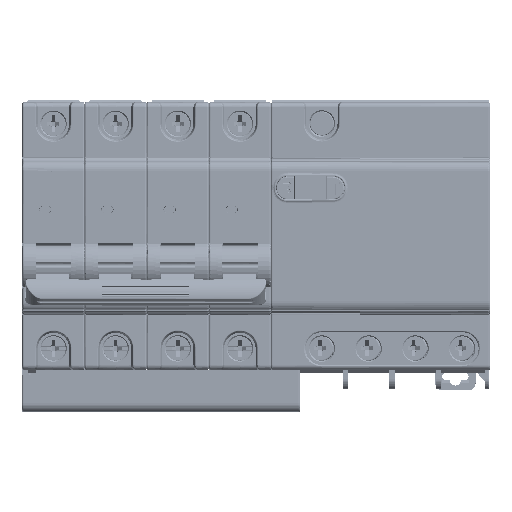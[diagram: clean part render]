
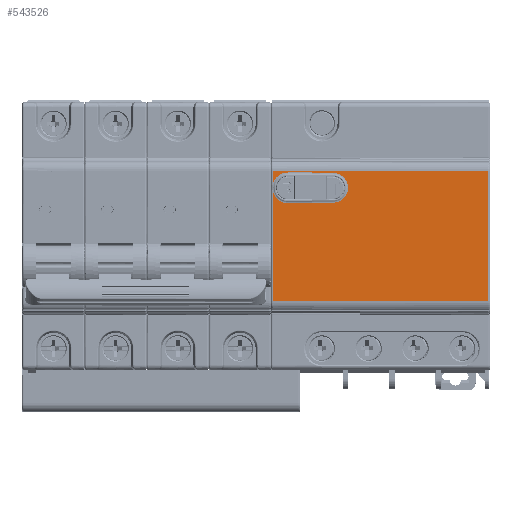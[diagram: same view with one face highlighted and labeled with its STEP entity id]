
A CAD part, top view. The second image highlights one B-rep face of the part: STEP entity #543526.
In plain terms, the highlighted planar face has unit normal (0, 0, 1) as drawn and (0, 1, 0) by its records, which use the part's own axes.
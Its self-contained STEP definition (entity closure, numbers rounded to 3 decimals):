
#564 = DIRECTION ( 'NONE',  ( 0., 0., -1. ) ) ;
#738 = EDGE_CURVE ( 'NONE', #85063, #279052, #480766, .T. ) ;
#1050 = ORIENTED_EDGE ( 'NONE', *, *, #472550, .T. ) ;
#1503 = B_SPLINE_CURVE_WITH_KNOTS ( 'NONE', 3,
 ( #385696, #74480, #423146, #534704 ),
 .UNSPECIFIED., .F., .F.,
 ( 4, 4 ),
 ( 0., 1. ),
 .UNSPECIFIED. ) ;
#3261 = EDGE_CURVE ( 'NONE', #502752, #458918, #1503, .T. ) ;
#6142 = CARTESIAN_POINT ( 'NONE',  ( 9.407, 14., 76. ) ) ;
#6722 = ORIENTED_EDGE ( 'NONE', *, *, #738, .T. ) ;
#7843 = LINE ( 'NONE', #11179, #481559 ) ;
#11179 = CARTESIAN_POINT ( 'NONE',  ( -18.5, 14., 133.4 ) ) ;
#20812 = CARTESIAN_POINT ( 'NONE',  ( 9.407, 14., 82.9 ) ) ;
#21826 = ORIENTED_EDGE ( 'NONE', *, *, #38484, .F. ) ;
#24466 = VERTEX_POINT ( 'NONE', #6142 ) ;
#33148 = EDGE_CURVE ( 'NONE', #85063, #300205, #648350, .T. ) ;
#38484 = EDGE_CURVE ( 'NONE', #320020, #325288, #416766, .T. ) ;
#46726 = CARTESIAN_POINT ( 'NONE',  ( 18.193, 14., 76. ) ) ;
#48869 = B_SPLINE_CURVE_WITH_KNOTS ( 'NONE', 3,
 ( #320420, #161538, #367932, #269719 ),
 .UNSPECIFIED., .F., .F.,
 ( 4, 4 ),
 ( 0., 1. ),
 .UNSPECIFIED. ) ;
#55619 = EDGE_CURVE ( 'NONE', #329331, #458918, #338666, .T. ) ;
#60765 = AXIS2_PLACEMENT_3D ( 'NONE', #80505, #280274, #429214 ) ;
#70871 = EDGE_CURVE ( 'NONE', #371225, #84873, #134059, .T. ) ;
#74480 = CARTESIAN_POINT ( 'NONE',  ( 9.452, 14., 82.9 ) ) ;
#80505 = CARTESIAN_POINT ( 'NONE',  ( 13.8, 14., 89. ) ) ;
#81297 = ORIENTED_EDGE ( 'NONE', *, *, #545392, .F. ) ;
#84873 = VERTEX_POINT ( 'NONE', #442804 ) ;
#85063 = VERTEX_POINT ( 'NONE', #46726 ) ;
#96568 = CARTESIAN_POINT ( 'NONE',  ( 9.543, 14.003, 82.9 ) ) ;
#104290 = DIRECTION ( 'NONE',  ( -1., 0., 0. ) ) ;
#105872 = CARTESIAN_POINT ( 'NONE',  ( 18.054, 14., 86.967 ) ) ;
#121553 = EDGE_CURVE ( 'NONE', #362578, #24466, #506348, .T. ) ;
#134059 = B_SPLINE_CURVE_WITH_KNOTS ( 'NONE', 3,
 ( #620208, #623528, #105872, #312144 ),
 .UNSPECIFIED., .F., .F.,
 ( 4, 4 ),
 ( 0., 1. ),
 .UNSPECIFIED. ) ;
#141725 = CARTESIAN_POINT ( 'NONE',  ( 14.701, 14., 71.7 ) ) ;
#161538 = CARTESIAN_POINT ( 'NONE',  ( 18.103, 14.003, 82.9 ) ) ;
#163953 = CARTESIAN_POINT ( 'NONE',  ( 9.544, 14., 84.933 ) ) ;
#169387 = CARTESIAN_POINT ( 'NONE',  ( 13.8, 14., 76. ) ) ;
#169478 = FACE_OUTER_BOUND ( 'NONE', #624705, .T. ) ;
#197920 = CARTESIAN_POINT ( 'NONE',  ( 12.899, 14., 71.7 ) ) ;
#222767 = DIRECTION ( 'NONE',  ( -0.205, 0., -0.979 ) ) ;
#223691 = ORIENTED_EDGE ( 'NONE', *, *, #3261, .F. ) ;
#227619 = CARTESIAN_POINT ( 'NONE',  ( -18.5, 14., 71.7 ) ) ;
#243042 = ORIENTED_EDGE ( 'NONE', *, *, #372004, .T. ) ;
#249499 = VECTOR ( 'NONE', #490512, 1000. ) ;
#252132 = CARTESIAN_POINT ( 'NONE',  ( 9.547, 14., 89. ) ) ;
#266375 = DIRECTION ( 'NONE',  ( 0., 0., -1. ) ) ;
#268427 = VERTEX_POINT ( 'NONE', #583299 ) ;
#269719 = CARTESIAN_POINT ( 'NONE',  ( 18.193, 14., 82.9 ) ) ;
#279052 = VERTEX_POINT ( 'NONE', #308656 ) ;
#280274 = DIRECTION ( 'NONE',  ( 0., 1., 0. ) ) ;
#287384 = LINE ( 'NONE', #480550, #249499 ) ;
#298405 = CIRCLE ( 'NONE', #60765, 4.253 ) ;
#300205 = VERTEX_POINT ( 'NONE', #141725 ) ;
#301032 = AXIS2_PLACEMENT_3D ( 'NONE', #422538, #537443, #222767 ) ;
#308656 = CARTESIAN_POINT ( 'NONE',  ( 18.193, 14., 82.9 ) ) ;
#311642 = DIRECTION ( 'NONE',  ( 0., 1., 0. ) ) ;
#312144 = CARTESIAN_POINT ( 'NONE',  ( 18.053, 14., 89. ) ) ;
#320020 = VERTEX_POINT ( 'NONE', #511578 ) ;
#320420 = CARTESIAN_POINT ( 'NONE',  ( 18.057, 14.003, 82.9 ) ) ;
#324503 = AXIS2_PLACEMENT_3D ( 'NONE', #480754, #538206, #592346 ) ;
#325288 = VERTEX_POINT ( 'NONE', #227619 ) ;
#327376 = CARTESIAN_POINT ( 'NONE',  ( 18.057, 14.003, 82.9 ) ) ;
#329331 = VERTEX_POINT ( 'NONE', #668561 ) ;
#338666 = B_SPLINE_CURVE_WITH_KNOTS ( 'NONE', 3,
 ( #252132, #519335, #163953, #96568 ),
 .UNSPECIFIED., .F., .F.,
 ( 4, 4 ),
 ( 0., 1. ),
 .UNSPECIFIED. ) ;
#348148 = EDGE_CURVE ( 'NONE', #329331, #84873, #298405, .T. ) ;
#362578 = VERTEX_POINT ( 'NONE', #197920 ) ;
#363285 = VECTOR ( 'NONE', #429962, 1000. ) ;
#364601 = LINE ( 'NONE', #621864, #390835 ) ;
#366032 = CARTESIAN_POINT ( 'NONE',  ( -18.5, 14., 133.4 ) ) ;
#367932 = CARTESIAN_POINT ( 'NONE',  ( 18.148, 14., 82.9 ) ) ;
#371225 = VERTEX_POINT ( 'NONE', #327376 ) ;
#372004 = EDGE_CURVE ( 'NONE', #320020, #540840, #7843, .T. ) ;
#374365 = LINE ( 'NONE', #584170, #399869 ) ;
#383377 = EDGE_CURVE ( 'NONE', #362578, #325288, #287384, .T. ) ;
#385696 = CARTESIAN_POINT ( 'NONE',  ( 9.407, 14., 82.9 ) ) ;
#390835 = VECTOR ( 'NONE', #266375, 1000. ) ;
#399869 = VECTOR ( 'NONE', #580841, 1000. ) ;
#399942 = ORIENTED_EDGE ( 'NONE', *, *, #33148, .F. ) ;
#402125 = ORIENTED_EDGE ( 'NONE', *, *, #121553, .F. ) ;
#402961 = ORIENTED_EDGE ( 'NONE', *, *, #472528, .F. ) ;
#416766 = LINE ( 'NONE', #366032, #547005 ) ;
#422538 = CARTESIAN_POINT ( 'NONE',  ( 13.8, 14., 76. ) ) ;
#423146 = CARTESIAN_POINT ( 'NONE',  ( 9.497, 14.003, 82.9 ) ) ;
#428783 = CARTESIAN_POINT ( 'NONE',  ( 18.5, 14., 133.4 ) ) ;
#429214 = DIRECTION ( 'NONE',  ( -1., 0., 0. ) ) ;
#429949 = PLANE ( 'NONE',  #324503 ) ;
#429962 = DIRECTION ( 'NONE',  ( 0., 0., 1. ) ) ;
#442804 = CARTESIAN_POINT ( 'NONE',  ( 18.053, 14., 89. ) ) ;
#456197 = CARTESIAN_POINT ( 'NONE',  ( 18.5, 14., 71.7 ) ) ;
#458918 = VERTEX_POINT ( 'NONE', #488192 ) ;
#472528 = EDGE_CURVE ( 'NONE', #371225, #279052, #48869, .T. ) ;
#472550 = EDGE_CURVE ( 'NONE', #502752, #24466, #364601, .T. ) ;
#480550 = CARTESIAN_POINT ( 'NONE',  ( 12.899, 14., 71.7 ) ) ;
#480754 = CARTESIAN_POINT ( 'NONE',  ( 22.5, 14., 71.2 ) ) ;
#480766 = LINE ( 'NONE', #524867, #363285 ) ;
#481559 = VECTOR ( 'NONE', #522331, 1000. ) ;
#486138 = ORIENTED_EDGE ( 'NONE', *, *, #540734, .T. ) ;
#486598 = ORIENTED_EDGE ( 'NONE', *, *, #55619, .T. ) ;
#488192 = CARTESIAN_POINT ( 'NONE',  ( 9.543, 14.003, 82.9 ) ) ;
#490512 = DIRECTION ( 'NONE',  ( -1., 0., 0. ) ) ;
#494329 = ORIENTED_EDGE ( 'NONE', *, *, #70871, .T. ) ;
#502752 = VERTEX_POINT ( 'NONE', #20812 ) ;
#506348 = CIRCLE ( 'NONE', #301032, 4.393 ) ;
#511578 = CARTESIAN_POINT ( 'NONE',  ( -18.5, 14., 133.4 ) ) ;
#519335 = CARTESIAN_POINT ( 'NONE',  ( 9.546, 14., 86.967 ) ) ;
#522331 = DIRECTION ( 'NONE',  ( 1., 0., 0. ) ) ;
#524867 = CARTESIAN_POINT ( 'NONE',  ( 18.193, 14., 76. ) ) ;
#534704 = CARTESIAN_POINT ( 'NONE',  ( 9.543, 14.003, 82.9 ) ) ;
#537443 = DIRECTION ( 'NONE',  ( 0., 1., 0. ) ) ;
#538206 = DIRECTION ( 'NONE',  ( 0., 1., 0. ) ) ;
#539724 = ORIENTED_EDGE ( 'NONE', *, *, #383377, .T. ) ;
#540734 = EDGE_CURVE ( 'NONE', #268427, #300205, #618640, .T. ) ;
#540840 = VERTEX_POINT ( 'NONE', #428783 ) ;
#543526 = ADVANCED_FACE ( 'NONE', ( #169478 ), #429949, .T. ) ;
#545392 = EDGE_CURVE ( 'NONE', #268427, #540840, #374365, .T. ) ;
#547005 = VECTOR ( 'NONE', #564, 1000. ) ;
#571543 = VECTOR ( 'NONE', #104290, 1000. ) ;
#580841 = DIRECTION ( 'NONE',  ( 0., 0., 1. ) ) ;
#583299 = CARTESIAN_POINT ( 'NONE',  ( 18.5, 14., 71.7 ) ) ;
#584170 = CARTESIAN_POINT ( 'NONE',  ( 18.5, 14., 71.7 ) ) ;
#592346 = DIRECTION ( 'NONE',  ( 1., 0., 0. ) ) ;
#618640 = LINE ( 'NONE', #456197, #571543 ) ;
#620208 = CARTESIAN_POINT ( 'NONE',  ( 18.057, 14.003, 82.9 ) ) ;
#621864 = CARTESIAN_POINT ( 'NONE',  ( 9.407, 14., 82.9 ) ) ;
#623027 = DIRECTION ( 'NONE',  ( 1., 0., 0. ) ) ;
#623528 = CARTESIAN_POINT ( 'NONE',  ( 18.056, 14., 84.933 ) ) ;
#624705 = EDGE_LOOP ( 'NONE', ( #486138, #399942, #6722, #402961, #494329, #636218, #486598, #223691, #1050, #402125, #539724, #21826, #243042, #81297 ) ) ;
#626687 = AXIS2_PLACEMENT_3D ( 'NONE', #169387, #311642, #623027 ) ;
#636218 = ORIENTED_EDGE ( 'NONE', *, *, #348148, .F. ) ;
#648350 = CIRCLE ( 'NONE', #626687, 4.393 ) ;
#668561 = CARTESIAN_POINT ( 'NONE',  ( 9.547, 14., 89. ) ) ;
